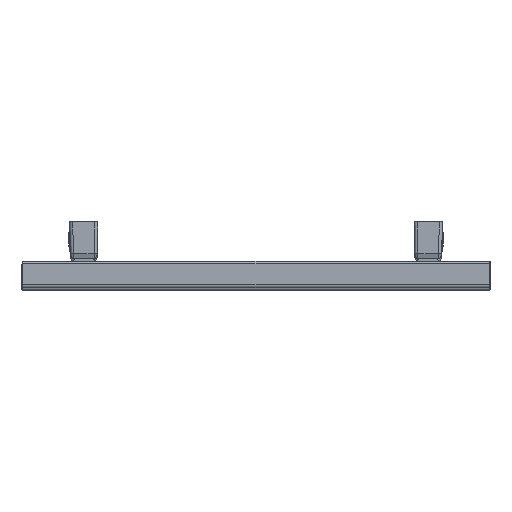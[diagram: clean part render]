
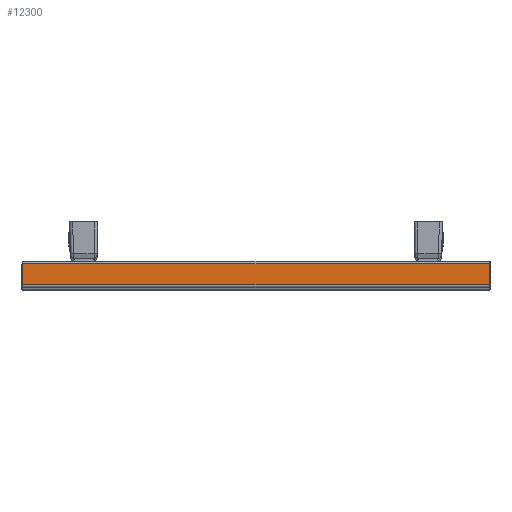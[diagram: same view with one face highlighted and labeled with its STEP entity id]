
A CAD part, top view. The second image highlights one B-rep face of the part: STEP entity #12300.
In plain terms, the highlighted planar face has unit normal (0, 0, 1).
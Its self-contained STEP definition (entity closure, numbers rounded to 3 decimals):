
#11565=CARTESIAN_POINT('',(-204.,-12.,1700.0));
#11566=VERTEX_POINT('',#11565);
#11633=CARTESIAN_POINT('',(-204.,12.,1700.0));
#11634=VERTEX_POINT('',#11633);
#11651=CARTESIAN_POINT('',(-204.,-12.,1700.0));
#11652=DIRECTION('',(0.0,1.0,0.0));
#11653=VECTOR('',#11652,24.);
#11654=LINE('',#11651,#11653);
#11655=EDGE_CURVE('',#11566,#11634,#11654,.T.);
#11805=CARTESIAN_POINT('',(324.,12.,1700.));
#11806=VERTEX_POINT('',#11805);
#11814=CARTESIAN_POINT('',(324.,-12.,1700.));
#11815=VERTEX_POINT('',#11814);
#11816=CARTESIAN_POINT('',(324.,12.,1700.));
#11817=DIRECTION('',(0.0,-1.0,0.0));
#11818=VECTOR('',#11817,24.0);
#11819=LINE('',#11816,#11818);
#11820=EDGE_CURVE('',#11806,#11815,#11819,.T.);
#12272=CARTESIAN_POINT('',(324.,-12.,1700.0));
#12273=DIRECTION('',(-1.0,0.0,0.0));
#12274=VECTOR('',#12273,528.0);
#12275=LINE('',#12272,#12274);
#12276=EDGE_CURVE('',#11815,#11566,#12275,.T.);
#12284=CARTESIAN_POINT('',(60.,-12.,1700.0));
#12285=DIRECTION('',(0.0,0.0,1.0));
#12286=DIRECTION('',(-1.0,0.0,0.0));
#12287=AXIS2_PLACEMENT_3D('',#12284,#12285,#12286);
#12288=PLANE('',#12287);
#12289=CARTESIAN_POINT('',(324.,12.,1700.0));
#12290=DIRECTION('',(-1.0,0.0,0.0));
#12291=VECTOR('',#12290,528.0);
#12292=LINE('',#12289,#12291);
#12293=EDGE_CURVE('',#11806,#11634,#12292,.T.);
#12294=ORIENTED_EDGE('',*,*,#12293,.T.);
#12295=ORIENTED_EDGE('',*,*,#11655,.F.);
#12296=ORIENTED_EDGE('',*,*,#12276,.F.);
#12297=ORIENTED_EDGE('',*,*,#11820,.F.);
#12298=EDGE_LOOP('',(#12294,#12295,#12296,#12297));
#12299=FACE_OUTER_BOUND('',#12298,.T.);
#12300=ADVANCED_FACE('',(#12299),#12288,.T.);
